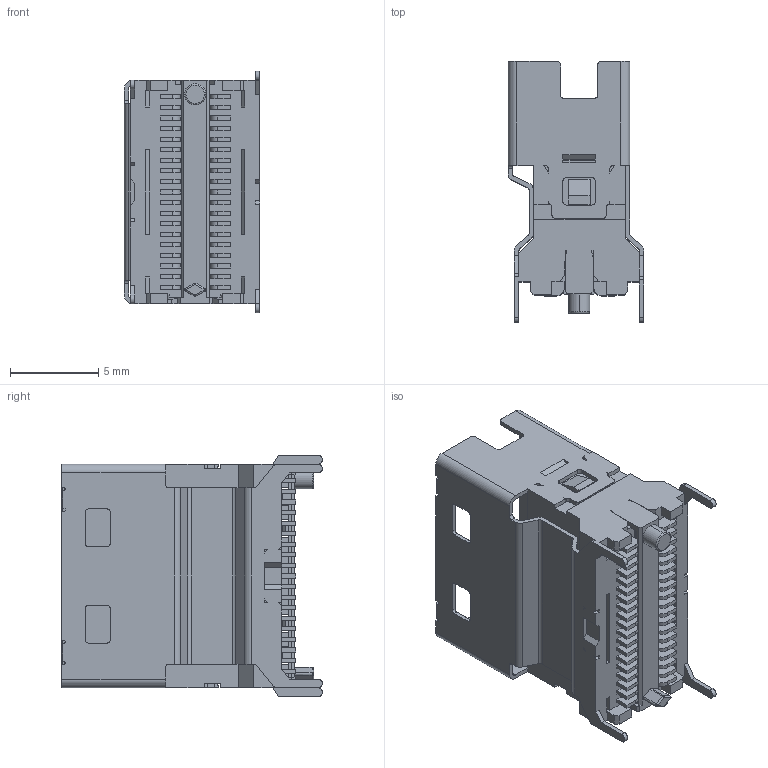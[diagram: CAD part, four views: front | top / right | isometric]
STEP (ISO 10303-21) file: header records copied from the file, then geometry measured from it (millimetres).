
FILE_DESCRIPTION((''),'2;1');
FILE_NAME('PSL060-383X-X0X-1H-CUSTOMER','2026-07-11T14:28:26',('31000862'),(''),'CREO PARAMETRIC BY PTC INC, 2022244','CREO PARAMETRIC BY PTC INC, 2022244','');
FILE_SCHEMA(('AUTOMOTIVE_DESIGN { 1 0 10303 214 1 1 1 1 }'));
Length unit declared in the file: millimetre
Products named in the file (1): PSL060-383X-X0X-1H-CUSTOMER
Bounding box: 7.71 x 14.8 x 13.7 mm (x, y, z)
Volume: 510.7 mm3; surface area: 1414.9 mm2
Topology: 1 solids, 1 shells, 1165 faces, 3361 edges, 2222 vertices
Faces by surface type: plane 881, cylinder 248, cone 28, bspline 6, torus 2
Entity records: 47043 total; most frequent: CARTESIAN_POINT 7004, ORIENTED_EDGE 6722, DIRECTION 6261, EDGE_CURVE 3361, VECTOR 2699, LINE 2699, VERTEX_POINT 2222, AXIS2_PLACEMENT_3D 1781
